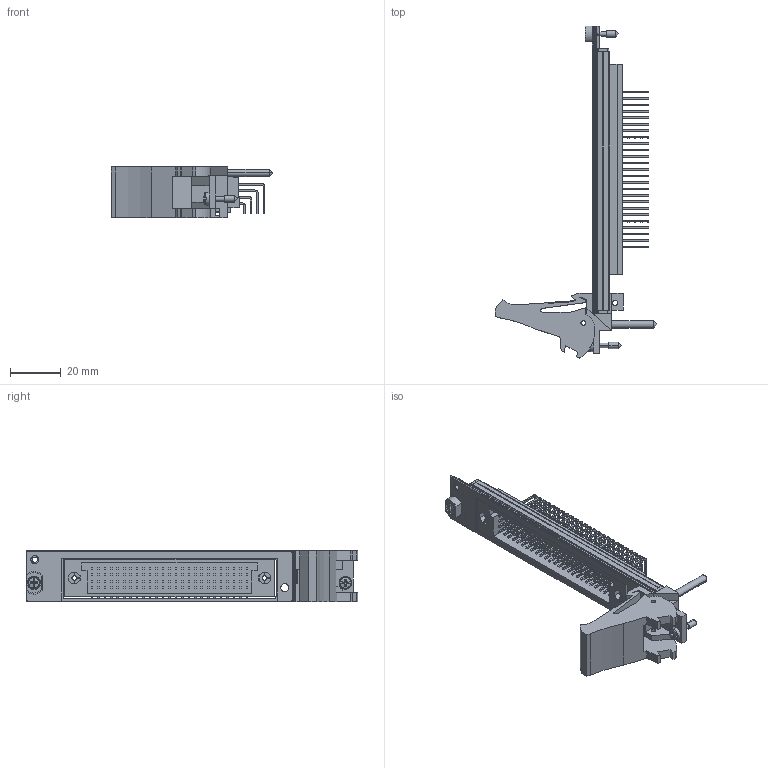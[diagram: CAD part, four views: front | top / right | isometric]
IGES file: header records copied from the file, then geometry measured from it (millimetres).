
Start section:  PTC IGES file: cu_pxie-2527.igs
Global section: file name: cu_pxie-2527.igs; native system: Pro/ENGINEER by Parametric Technology Corporation; preprocessor: 2006080; author: jjorden; organization: Unknown; date: 091102.171212; units: inch
Bounding box: 63.53 x 130.49 x 20.31 mm (x, y, z)
Surface area: 24404.5 mm2 (no closed solid volume)
Topology: 0 solids, 0 shells, 1806 faces, 9412 edges, 9408 vertices
Faces by surface type: bspline 1487, revolution 319
